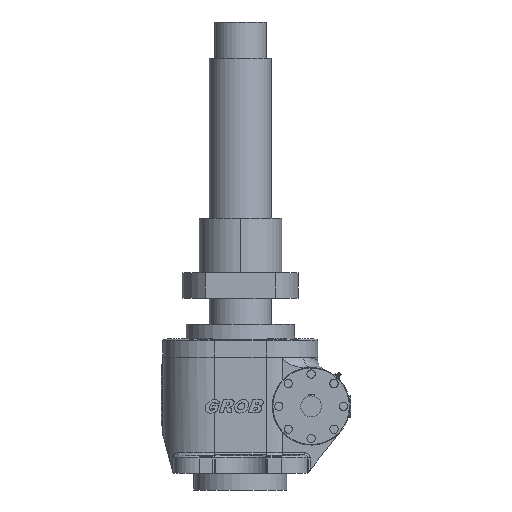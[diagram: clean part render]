
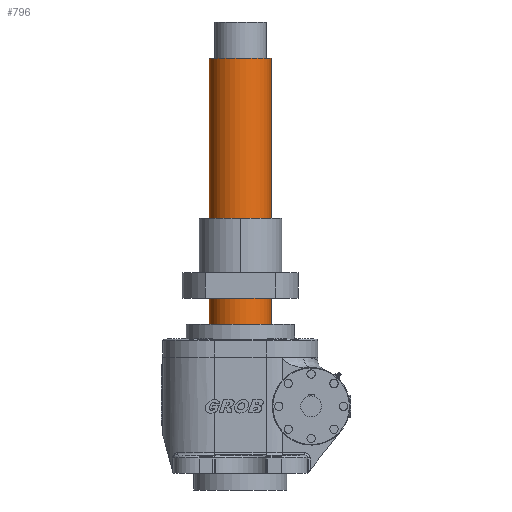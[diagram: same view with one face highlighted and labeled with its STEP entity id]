
A CAD part, front view. The second image highlights one B-rep face of the part: STEP entity #796.
In plain terms, the highlighted cylindrical face has radius 60 mm (diameter 120 mm), a partial arc.
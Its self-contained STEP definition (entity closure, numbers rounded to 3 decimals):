
#796=ADVANCED_FACE('',(#2306),#2307,.T.);
#2306=FACE_OUTER_BOUND('',#4515,.T.);
#2307=CYLINDRICAL_SURFACE('',#4516,60.0);
#4515=EDGE_LOOP('',(#10204,#10205,#10206,#10207));
#4516=AXIS2_PLACEMENT_3D('',#10208,#10209,#10210);
#10204=ORIENTED_EDGE('',*,*,#12048,.T.);
#10205=ORIENTED_EDGE('',*,*,#12052,.F.);
#10206=ORIENTED_EDGE('',*,*,#12050,.T.);
#10207=ORIENTED_EDGE('',*,*,#12054,.F.);
#10208=CARTESIAN_POINT('',(0.0,0.0,546.5));
#10209=DIRECTION('',(0.0,0.0,1.0));
#10210=DIRECTION('',(1.0,0.0,0.0));
#12048=EDGE_CURVE('',#15068,#15069,#15070,.T.);
#12050=EDGE_CURVE('',#15073,#15071,#15074,.T.);
#12052=EDGE_CURVE('',#15073,#15069,#15076,.T.);
#12054=EDGE_CURVE('',#15068,#15071,#15078,.T.);
#15068=VERTEX_POINT('',#21266);
#15069=VERTEX_POINT('',#21267);
#15070=LINE('',#21268,#21269);
#15071=VERTEX_POINT('',#21270);
#15073=VERTEX_POINT('',#21272);
#15074=LINE('',#21273,#21274);
#15076=CIRCLE('',#21276,60.0);
#15078=CIRCLE('',#21278,60.0);
#21266=CARTESIAN_POINT('',(60.0,0.0,289.0));
#21267=CARTESIAN_POINT('',(60.0,0.0,804.0));
#21268=CARTESIAN_POINT('',(60.0,0.,546.5));
#21269=VECTOR('',#24634,1.0);
#21270=CARTESIAN_POINT('',(-60.0,0.,289.0));
#21272=CARTESIAN_POINT('',(-60.0,0.,804.0));
#21273=CARTESIAN_POINT('',(-60.0,0.,546.5));
#21274=VECTOR('',#24638,1.0);
#21276=AXIS2_PLACEMENT_3D('',#24642,#24643,#24644);
#21278=AXIS2_PLACEMENT_3D('',#24648,#24649,#24650);
#24634=DIRECTION('',(0.0,0.0,1.0));
#24638=DIRECTION('',(-0.0,-0.0,-1.0));
#24642=CARTESIAN_POINT('',(0.0,0.0,804.0));
#24643=DIRECTION('',(0.0,0.0,1.0));
#24644=DIRECTION('',(1.0,0.0,0.0));
#24648=CARTESIAN_POINT('',(0.0,0.0,289.0));
#24649=DIRECTION('',(0.0,0.0,-1.0));
#24650=DIRECTION('',(1.0,0.0,0.0));
